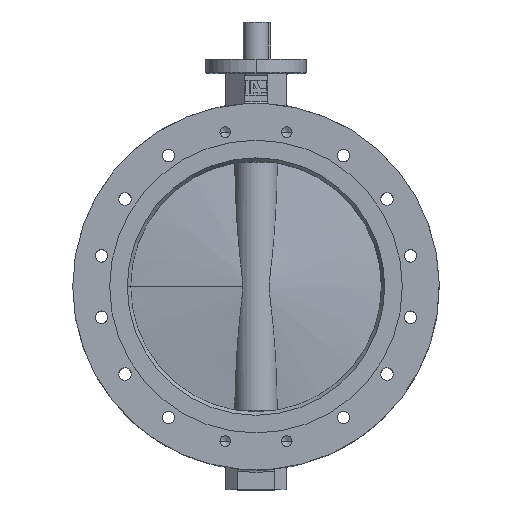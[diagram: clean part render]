
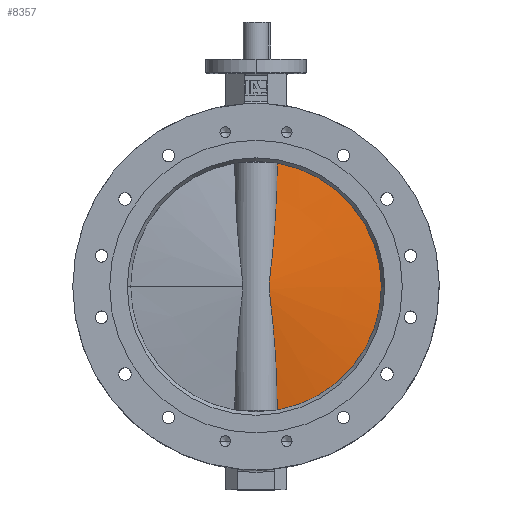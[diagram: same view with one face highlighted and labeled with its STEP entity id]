
A CAD part, top view. The second image highlights one B-rep face of the part: STEP entity #8357.
In plain terms, the highlighted conical face has half-angle 82.617 degrees and reference radius 219.964 mm.
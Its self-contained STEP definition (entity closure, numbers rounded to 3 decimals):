
#93 = ORIENTED_EDGE ( 'NONE', *, *, #7431, .F. ) ;
#94 = ORIENTED_EDGE ( 'NONE', *, *, #7403, .T. ) ;
#95 = ORIENTED_EDGE ( 'NONE', *, *, #7432, .T. ) ;
#1816 = CIRCLE ( 'NONE', #7997, 219.106 ) ;
#1876 = CIRCLE ( 'NONE', #8013, 219.106 ) ;
#2802 = CARTESIAN_POINT ( 'NONE',  ( -4.111, -215.913, 37.274 ) ) ;
#2803 = CARTESIAN_POINT ( 'NONE',  ( -4.111, 0., 219.106 ) ) ;
#2817 = CARTESIAN_POINT ( 'NONE',  ( -4.111, 215.913, 37.274 ) ) ;
#2889 = CARTESIAN_POINT ( 'NONE',  ( -4.111, 0., 0. ) ) ;
#2890 = DIRECTION ( 'NONE',  ( -1., 0., 0. ) ) ;
#2891 = DIRECTION ( 'NONE',  ( 0., 0., 1. ) ) ;
#3008 = CARTESIAN_POINT ( 'NONE',  ( -4.111, -215.913, 37.274 ) ) ;
#3009 = CARTESIAN_POINT ( 'NONE',  ( -6.414, -197.921, 37.02 ) ) ;
#3013 = CARTESIAN_POINT ( 'NONE',  ( -8.714, -179.932, 36.552 ) ) ;
#3014 = CARTESIAN_POINT ( 'NONE',  ( -13.303, -143.967, 35.143 ) ) ;
#3015 = CARTESIAN_POINT ( 'NONE',  ( -15.592, -126.002, 34.203 ) ) ;
#3016 = CARTESIAN_POINT ( 'NONE',  ( -18.997, -99.086, 32.358 ) ) ;
#3017 = CARTESIAN_POINT ( 'NONE',  ( -20.128, -90.119, 31.67 ) ) ;
#3018 = CARTESIAN_POINT ( 'NONE',  ( -22.369, -72.197, 30.129 ) ) ;
#3019 = CARTESIAN_POINT ( 'NONE',  ( -23.481, -63.241, 29.274 ) ) ;
#3020 = CARTESIAN_POINT ( 'NONE',  ( -25.108, -49.812, 27.863 ) ) ;
#3021 = CARTESIAN_POINT ( 'NONE',  ( -25.643, -45.337, 27.371 ) ) ;
#3022 = CARTESIAN_POINT ( 'NONE',  ( -26.685, -36.385, 26.357 ) ) ;
#3023 = CARTESIAN_POINT ( 'NONE',  ( -27.192, -31.908, 25.833 ) ) ;
#3024 = CARTESIAN_POINT ( 'NONE',  ( -27.9, -25.187, 25.059 ) ) ;
#3025 = CARTESIAN_POINT ( 'NONE',  ( -28.127, -22.944, 24.804 ) ) ;
#3026 = CARTESIAN_POINT ( 'NONE',  ( -28.55, -18.456, 24.316 ) ) ;
#3027 = CARTESIAN_POINT ( 'NONE',  ( -28.746, -16.211, 24.083 ) ) ;
#3028 = CARTESIAN_POINT ( 'NONE',  ( -29.086, -11.718, 23.671 ) ) ;
#3029 = CARTESIAN_POINT ( 'NONE',  ( -29.23, -9.47, 23.493 ) ) ;
#3030 = CARTESIAN_POINT ( 'NONE',  ( -29.433, -4.969, 23.237 ) ) ;
#3031 = CARTESIAN_POINT ( 'NONE',  ( -29.493, -2.716, 23.161 ) ) ;
#3032 = CARTESIAN_POINT ( 'NONE',  ( -29.507, 1.797, 23.143 ) ) ;
#3033 = CARTESIAN_POINT ( 'NONE',  ( -29.461, 4.057, 23.202 ) ) ;
#3034 = CARTESIAN_POINT ( 'NONE',  ( -29.279, 8.582, 23.431 ) ) ;
#3035 = CARTESIAN_POINT ( 'NONE',  ( -29.143, 10.85, 23.6 ) ) ;
#3036 = CARTESIAN_POINT ( 'NONE',  ( -28.815, 15.377, 24. ) ) ;
#3037 = CARTESIAN_POINT ( 'NONE',  ( -28.623, 17.634, 24.23 ) ) ;
#3038 = CARTESIAN_POINT ( 'NONE',  ( -28.206, 22.143, 24.714 ) ) ;
#3039 = CARTESIAN_POINT ( 'NONE',  ( -27.981, 24.394, 24.969 ) ) ;
#3040 = CARTESIAN_POINT ( 'NONE',  ( -27.277, 31.143, 25.743 ) ) ;
#3041 = CARTESIAN_POINT ( 'NONE',  ( -26.77, 35.637, 26.271 ) ) ;
#3042 = CARTESIAN_POINT ( 'NONE',  ( -25.728, 44.625, 27.292 ) ) ;
#3043 = CARTESIAN_POINT ( 'NONE',  ( -25.191, 49.119, 27.788 ) ) ;
#3044 = CARTESIAN_POINT ( 'NONE',  ( -23.56, 62.602, 29.211 ) ) ;
#3045 = CARTESIAN_POINT ( 'NONE',  ( -22.444, 71.595, 30.073 ) ) ;
#3046 = CARTESIAN_POINT ( 'NONE',  ( -20.194, 89.593, 31.628 ) ) ;
#3047 = CARTESIAN_POINT ( 'NONE',  ( -19.059, 98.598, 32.322 ) ) ;
#3048 = CARTESIAN_POINT ( 'NONE',  ( -16.779, 116.62, 33.562 ) ) ;
#3049 = CARTESIAN_POINT ( 'NONE',  ( -15.634, 125.636, 34.108 ) ) ;
#3050 = CARTESIAN_POINT ( 'NONE',  ( -13.339, 143.68, 35.07 ) ) ;
#3051 = CARTESIAN_POINT ( 'NONE',  ( -12.188, 152.707, 35.485 ) ) ;
#3052 = CARTESIAN_POINT ( 'NONE',  ( -8.733, 179.788, 36.549 ) ) ;
#3053 = CARTESIAN_POINT ( 'NONE',  ( -6.423, 197.848, 37.019 ) ) ;
#3054 = CARTESIAN_POINT ( 'NONE',  ( -4.111, 215.913, 37.274 ) ) ;
#3057 = CARTESIAN_POINT ( 'NONE',  ( -4.111, 0., 0. ) ) ;
#3058 = DIRECTION ( 'NONE',  ( -1., 0., 0. ) ) ;
#3059 = DIRECTION ( 'NONE',  ( 0., 0., 1. ) ) ;
#4459 = FACE_OUTER_BOUND ( 'NONE', #5711, .T. ) ;
#4463 = CONICAL_SURFACE ( 'NONE', #4691, 219.964, 1.442 ) ;
#4691 = AXIS2_PLACEMENT_3D ( 'NONE', #5157, #5158, #5156 ) ;
#5156 = DIRECTION ( 'NONE',  ( 0., 0., -1. ) ) ;
#5157 = CARTESIAN_POINT ( 'NONE',  ( -4., 0., 0. ) ) ;
#5158 = DIRECTION ( 'NONE',  ( 1., 0., 0. ) ) ;
#5711 = EDGE_LOOP ( 'NONE', ( #93, #94, #95 ) ) ;
#6553 = B_SPLINE_CURVE_WITH_KNOTS ( 'NONE', 3,
 ( #3008, #3009, #3013, #3014, #3015, #3016, #3017, #3018, #3019, #3020, #3021, #3022, #3023, #3024, #3025, #3026, #3027, #3028, #3029, #3030, #3031, #3032, #3033, #3034, #3035, #3036, #3037, #3038, #3039, #3040, #3041, #3042, #3043, #3044, #3045, #3046, #3047, #3048, #3049, #3050, #3051, #3052, #3053, #3054 ),
 .UNSPECIFIED., .F., .F.,
 ( 4, 2, 2, 2, 2, 2, 2, 2, 2, 2, 2, 2, 2, 2, 2, 2, 2, 2, 2, 2, 2, 4 ),
 ( -0.195, -0.141, -0.087, -0.06, -0.033, -0.019, -0.006, 0.001, 0.008, 0.015, 0.021, 0.028, 0.035, 0.042, 0.048, 0.062, 0.075, 0.102, 0.13, 0.157, 0.184, 0.238 ),
 .UNSPECIFIED. ) ;
#6749 = VERTEX_POINT ( 'NONE', #2802 ) ;
#6750 = VERTEX_POINT ( 'NONE', #2803 ) ;
#6764 = VERTEX_POINT ( 'NONE', #2817 ) ;
#7403 = EDGE_CURVE ( 'NONE', #6749, #6750, #1816, .T. ) ;
#7431 = EDGE_CURVE ( 'NONE', #6749, #6764, #6553, .T. ) ;
#7432 = EDGE_CURVE ( 'NONE', #6750, #6764, #1876, .T. ) ;
#7997 = AXIS2_PLACEMENT_3D ( 'NONE', #2889, #2890, #2891 ) ;
#8013 = AXIS2_PLACEMENT_3D ( 'NONE', #3057, #3058, #3059 ) ;
#8357 = ADVANCED_FACE ( 'NONE', ( #4459 ), #4463, .T. ) ;
